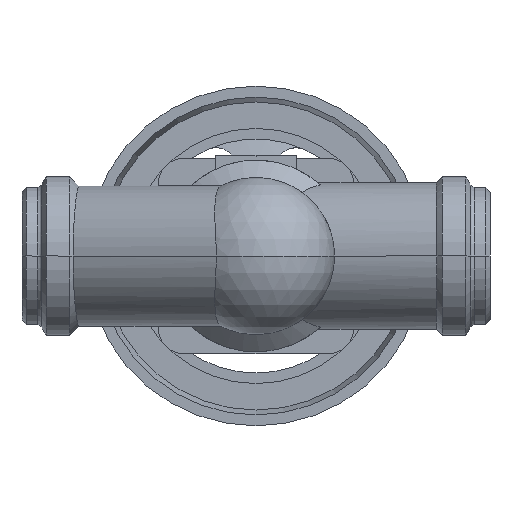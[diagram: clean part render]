
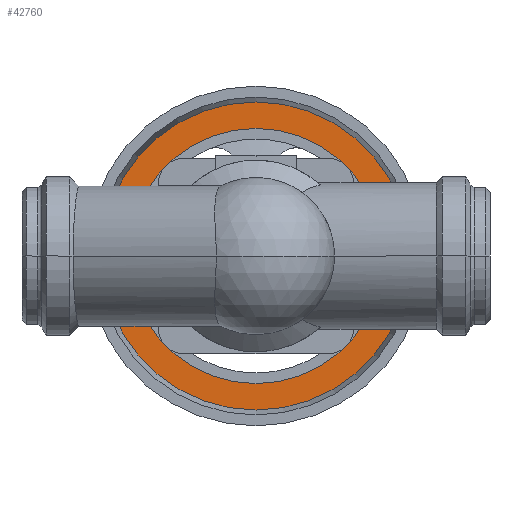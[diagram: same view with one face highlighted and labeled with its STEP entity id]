
A CAD part, front view. The second image highlights one B-rep face of the part: STEP entity #42760.
In plain terms, the highlighted planar face has unit normal (0, -1, 0).
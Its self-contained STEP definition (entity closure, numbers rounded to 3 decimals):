
#42210=CARTESIAN_POINT('',(257.038,378.,0.));
#42220=VERTEX_POINT('',#42210);
#42250=CARTESIAN_POINT('',(155.,378.,0.));
#42260=DIRECTION('',(0.,1.,0.));
#42270=DIRECTION('',(-1.,0.,0.));
#42280=AXIS2_PLACEMENT_3D('',#42250,#42260,#42270);
#42290=CIRCLE('',#42280,102.038);
#42300=CARTESIAN_POINT('',(52.962,378.,0.));
#42310=VERTEX_POINT('',#42300);
#42320=EDGE_CURVE('',#42310,#42220,#42290,.T.);
#42510=CARTESIAN_POINT('',(61.731,378.,0.));
#42520=DIRECTION('',(0.,-1.,0.));
#42530=DIRECTION('',(1.,0.,0.));
#42540=AXIS2_PLACEMENT_3D('',#42510,#42520,#42530);
#42550=PLANE('',#42540);
#42560=ORIENTED_EDGE('',*,*,#42320,.F.);
#42570=EDGE_CURVE('',#42220,#42310,#42290,.T.);
#42580=ORIENTED_EDGE('',*,*,#42570,.F.);
#42590=EDGE_LOOP('',(#42580,#42560));
#42600=FACE_OUTER_BOUND('',#42590,.T.);
#42610=CARTESIAN_POINT('',(155.,378.,0.));
#42620=DIRECTION('',(0.,1.,0.));
#42630=DIRECTION('',(-1.,0.,0.));
#42640=AXIS2_PLACEMENT_3D('',#42610,#42620,#42630);
#42650=CIRCLE('',#42640,84.5);
#42660=CARTESIAN_POINT('',(239.5,378.,0.));
#42670=VERTEX_POINT('',#42660);
#42680=CARTESIAN_POINT('',(70.5,378.,0.));
#42690=VERTEX_POINT('',#42680);
#42700=EDGE_CURVE('',#42670,#42690,#42650,.T.);
#42710=ORIENTED_EDGE('',*,*,#42700,.T.);
#42720=EDGE_CURVE('',#42690,#42670,#42650,.T.);
#42730=ORIENTED_EDGE('',*,*,#42720,.T.);
#42740=EDGE_LOOP('',(#42730,#42710));
#42750=FACE_BOUND('',#42740,.T.);
#42760=ADVANCED_FACE('',(#42600,#42750),#42550,.T.);
